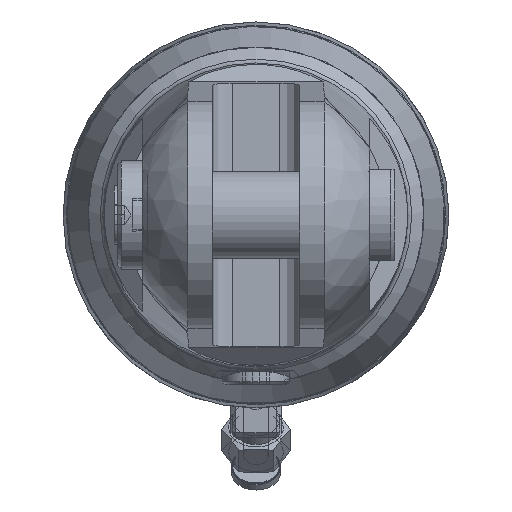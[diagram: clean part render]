
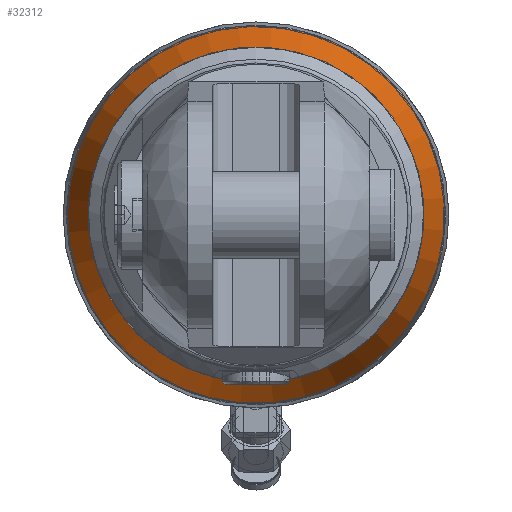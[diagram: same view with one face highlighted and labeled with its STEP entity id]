
A CAD part, left-side view. The second image highlights one B-rep face of the part: STEP entity #32312.
In plain terms, the highlighted conical face has half-angle 19.57 degrees and reference radius 71.944 mm.
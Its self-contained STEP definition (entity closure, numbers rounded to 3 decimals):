
#4525=FACE_OUTER_BOUND('',#6347,.T.);
#6347=EDGE_LOOP('',(#27839,#27840,#27841,#27842,#27843,#27844));
#9186=LINE('',#58752,#12043);
#12043=VECTOR('',#38598,71.944);
#12502=CIRCLE('',#33597,76.22);
#12503=CIRCLE('',#33598,76.22);
#12504=CIRCLE('',#33600,67.667);
#12505=CIRCLE('',#33601,67.667);
#15289=VERTEX_POINT('',#58742);
#15290=VERTEX_POINT('',#58744);
#15291=VERTEX_POINT('',#58748);
#15292=VERTEX_POINT('',#58749);
#19547=EDGE_CURVE('',#15289,#15290,#12502,.T.);
#19548=EDGE_CURVE('',#15290,#15289,#12503,.T.);
#19549=EDGE_CURVE('',#15291,#15292,#12504,.T.);
#19550=EDGE_CURVE('',#15292,#15291,#12505,.T.);
#19551=EDGE_CURVE('',#15292,#15290,#9186,.T.);
#27839=ORIENTED_EDGE('',*,*,#19549,.F.);
#27840=ORIENTED_EDGE('',*,*,#19550,.F.);
#27841=ORIENTED_EDGE('',*,*,#19551,.T.);
#27842=ORIENTED_EDGE('',*,*,#19547,.F.);
#27843=ORIENTED_EDGE('',*,*,#19548,.F.);
#27844=ORIENTED_EDGE('',*,*,#19551,.F.);
#29185=CONICAL_SURFACE('',#33599,71.944,0.342);
#32312=ADVANCED_FACE('',(#4525),#29185,.T.);
#33597=AXIS2_PLACEMENT_3D('',#58745,#38588,#38589);
#33598=AXIS2_PLACEMENT_3D('',#58746,#38590,#38591);
#33599=AXIS2_PLACEMENT_3D('',#58747,#38592,#38593);
#33600=AXIS2_PLACEMENT_3D('',#58750,#38594,#38595);
#33601=AXIS2_PLACEMENT_3D('',#58751,#38596,#38597);
#38588=DIRECTION('center_axis',(1.,0.,0.));
#38589=DIRECTION('ref_axis',(0.,0.091,0.996));
#38590=DIRECTION('center_axis',(1.,0.,0.));
#38591=DIRECTION('ref_axis',(0.,0.091,0.996));
#38592=DIRECTION('center_axis',(1.,0.,0.));
#38593=DIRECTION('ref_axis',(0.,-0.091,-0.996));
#38594=DIRECTION('center_axis',(-1.,0.,0.));
#38595=DIRECTION('ref_axis',(0.,0.091,0.996));
#38596=DIRECTION('center_axis',(-1.,0.,0.));
#38597=DIRECTION('ref_axis',(0.,0.091,0.996));
#38598=DIRECTION('',(0.942,0.031,0.334));
#58742=CARTESIAN_POINT('',(-0.471,-6.967,-75.901));
#58744=CARTESIAN_POINT('',(-0.471,6.967,75.901));
#58745=CARTESIAN_POINT('Origin',(-0.471,0.,
0.));
#58746=CARTESIAN_POINT('Origin',(-0.471,0.,
0.));
#58747=CARTESIAN_POINT('Origin',(-12.5,0.,0.));
#58748=CARTESIAN_POINT('',(-24.529,-6.185,-67.384));
#58749=CARTESIAN_POINT('',(-24.529,6.185,67.384));
#58750=CARTESIAN_POINT('Origin',(-24.529,0.,
0.));
#58751=CARTESIAN_POINT('Origin',(-24.529,0.,
0.));
#58752=CARTESIAN_POINT('',(-12.5,6.576,71.643));
